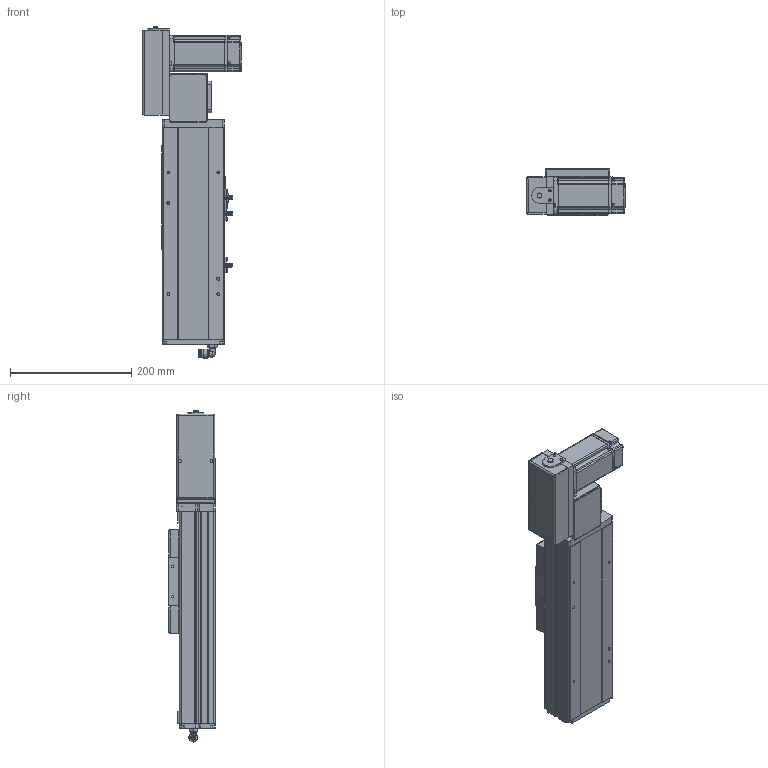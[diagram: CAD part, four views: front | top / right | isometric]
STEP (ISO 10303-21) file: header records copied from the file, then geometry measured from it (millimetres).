
FILE_DESCRIPTION (( 'STEP AP214' ), '1' );
FILE_NAME ('TPE10-L41.6-100-L-P20-C4.STEP', '2023-03-13T00:44:21', ( '' ), ( '' ), 'SwSTEP 2.0', 'SolidWorks 2020', '' );
FILE_SCHEMA (( 'AUTOMOTIVE_DESIGN' ));
Length unit declared in the file: millimetre
Products named in the file (16): TPE10-L41.6-100-L-P20-C4; 葩璃 TPE10-L-002 耜裔ZTMT-102B-04^TPE10-L41.6-L-P20-C4; 葩璃 TPE10 賑雄殤 TPE10^TPE10-L41.6-L-P20-C4; 葩璃 PL8-02^TPE10-L41.6-L-P20-C4; 葩璃 TPE10-L-001 菁釱MZ-102A-01^TPE10-L41.6-L-P20-C4; hexagon head bolts-full thread gb_GB_FASTENER_BOLT_STBAB A M5X16-N; 葩璃 pm-t65-672^TPE10-L41.6-L-P20-C4; 葩璃 TPF10-L-008 耜醱啣^TPE10-L41.6-L-P20-C4; 葩璃 TPF10 詩湍揤啣 TPF10 12^TPE10-L41.6-L-P20-C4; hex nuts, style 1-grades ab gb_GB_FASTENER_NUT_SNAB1 M3-N; 葩璃 詩湍75^TPE10-L41.6-L-P20-C4; 葩璃 TPT10-L-009 萇儂啣^TPE10-L41.6-L-P20-C4_200W; 葩璃 TPE10-007 々湍釱MZ-169x88^TPE10-L41.6-L-P20-C4; hexagon socket head cap screws gb_GB_FASTENER_SCREWS_HSHCS M3X6-N; 葩璃 侂狟400W^TPE10-L41.6-L-P20-C4; 葩璃 侂狟100W^TPE10-L41.6-L-P20-C4
Assembly tree (29 placements, depth 2):
  TPE10-L41.6-100-L-P20-C4
    葩璃 TPE10-L-001 菁釱MZ-102A-01^TPE10-L41.6-L-P20-C4
    葩璃 TPE10-L-002 耜裔ZTMT-102B-04^TPE10-L41.6-L-P20-C4  x2
    葩璃 詩湍75^TPE10-L41.6-L-P20-C4
    葩璃 TPE10-007 々湍釱MZ-169x88^TPE10-L41.6-L-P20-C4
    葩璃 TPF10-L-008 耜醱啣^TPE10-L41.6-L-P20-C4
    葩璃 TPE10 賑雄殤 TPE10^TPE10-L41.6-L-P20-C4
    葩璃 TPF10 詩湍揤啣 TPF10 12^TPE10-L41.6-L-P20-C4  x2
    葩璃 TPT10-L-009 萇儂啣^TPE10-L41.6-L-P20-C4_200W
    葩璃 pm-t65-672^TPE10-L41.6-L-P20-C4  x3
    葩璃 PL8-02^TPE10-L41.6-L-P20-C4
    葩璃 侂狟100W^TPE10-L41.6-L-P20-C4
    葩璃 侂狟400W^TPE10-L41.6-L-P20-C4
    hexagon socket head cap screws gb_GB_FASTENER_SCREWS_HSHCS M3X6-N  x6
    hex nuts, style 1-grades ab gb_GB_FASTENER_NUT_SNAB1 M3-N  x6
    hexagon head bolts-full thread gb_GB_FASTENER_BOLT_STBAB A M5X16-N
Bounding box: 162.5 x 78.5 x 547 mm (x, y, z)
Volume: 2066890.8 mm3; surface area: 546944.4 mm2
Topology: 37 solids, 37 shells, 1997 faces, 5121 edges, 3264 vertices
Faces by surface type: plane 1106, cylinder 621, cone 200, bspline 42, torus 26, sphere 2
Entity records: 49704 total; most frequent: CARTESIAN_POINT 10350, DIRECTION 7984, ORIENTED_EDGE 7714, EDGE_CURVE 3857, AXIS2_PLACEMENT_3D 2796, VERTEX_POINT 2491, LINE 2392, VECTOR 2392
